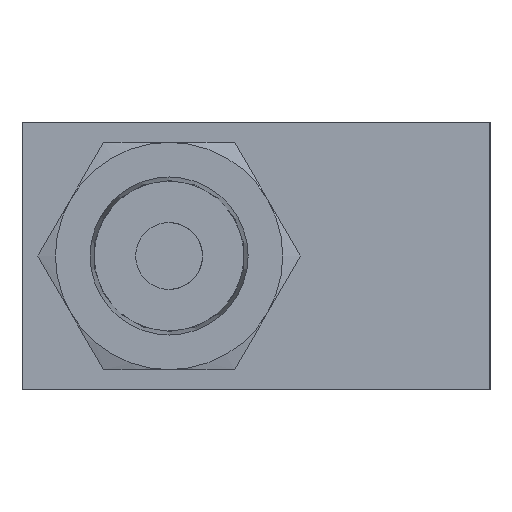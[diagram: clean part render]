
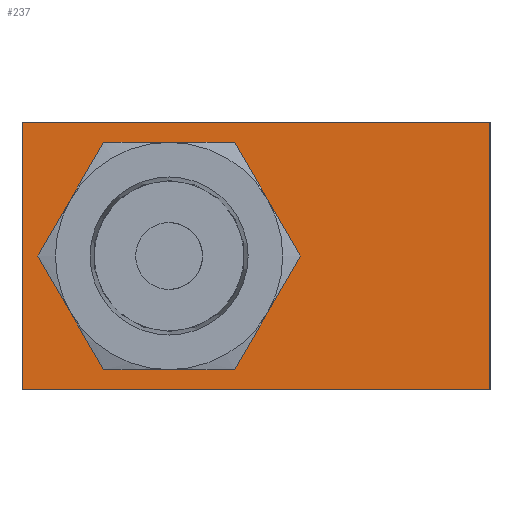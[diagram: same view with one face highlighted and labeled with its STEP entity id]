
A CAD part, left-side view. The second image highlights one B-rep face of the part: STEP entity #237.
In plain terms, the highlighted planar face has unit normal (-1, 0, 0).
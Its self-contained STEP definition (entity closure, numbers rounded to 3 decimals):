
#237=ADVANCED_FACE('',(#404,#405),#406,.F.);
#404=FACE_OUTER_BOUND('',#701,.T.);
#405=FACE_BOUND('',#702,.T.);
#406=PLANE('',#703);
#701=EDGE_LOOP('',(#1107,#1108,#1109,#1110));
#702=EDGE_LOOP('',(#1111,#1112,#1113,#1114,#1115,#1116));
#703=AXIS2_PLACEMENT_3D('',#1117,#1118,#1119);
#1107=ORIENTED_EDGE('',*,*,#1912,.F.);
#1108=ORIENTED_EDGE('',*,*,#1893,.F.);
#1109=ORIENTED_EDGE('',*,*,#1913,.T.);
#1110=ORIENTED_EDGE('',*,*,#1914,.T.);
#1111=ORIENTED_EDGE('',*,*,#1867,.F.);
#1112=ORIENTED_EDGE('',*,*,#1873,.F.);
#1113=ORIENTED_EDGE('',*,*,#1874,.F.);
#1114=ORIENTED_EDGE('',*,*,#1859,.F.);
#1115=ORIENTED_EDGE('',*,*,#1911,.F.);
#1116=ORIENTED_EDGE('',*,*,#1881,.F.);
#1117=CARTESIAN_POINT('',(0.,35.0,10.0));
#1118=DIRECTION('',(1.0,0.0,0.0));
#1119=DIRECTION('',(0.0,1.0,0.0));
#1859=EDGE_CURVE('',#2135,#2130,#2137,.T.);
#1867=EDGE_CURVE('',#2150,#2145,#2152,.T.);
#1873=EDGE_CURVE('',#2160,#2150,#2162,.T.);
#1874=EDGE_CURVE('',#2130,#2160,#2163,.T.);
#1881=EDGE_CURVE('',#2145,#2169,#2174,.T.);
#1893=EDGE_CURVE('',#2194,#2196,#2197,.T.);
#1911=EDGE_CURVE('',#2169,#2135,#2224,.T.);
#1912=EDGE_CURVE('',#2196,#2225,#2226,.T.);
#1913=EDGE_CURVE('',#2194,#2227,#2228,.T.);
#1914=EDGE_CURVE('',#2227,#2225,#2229,.T.);
#2130=VERTEX_POINT('',#2591);
#2135=VERTEX_POINT('',#2601);
#2137=CIRCLE('',#2607,8.5);
#2145=VERTEX_POINT('',#2620);
#2150=VERTEX_POINT('',#2630);
#2152=CIRCLE('',#2634,8.5);
#2160=VERTEX_POINT('',#2653);
#2162=CIRCLE('',#2657,8.5);
#2163=CIRCLE('',#2658,8.5);
#2169=VERTEX_POINT('',#2670);
#2174=CIRCLE('',#2680,8.5);
#2194=VERTEX_POINT('',#2702);
#2196=VERTEX_POINT('',#2705);
#2197=LINE('',#2706,#2707);
#2224=CIRCLE('',#2746,8.5);
#2225=VERTEX_POINT('',#2747);
#2226=LINE('',#2748,#2749);
#2227=VERTEX_POINT('',#2750);
#2228=LINE('',#2751,#2752);
#2229=LINE('',#2753,#2754);
#2591=CARTESIAN_POINT('',(0.,16.639,-4.25));
#2601=CARTESIAN_POINT('',(0.,24.0,-8.5));
#2607=AXIS2_PLACEMENT_3D('',#3239,#3240,#3241);
#2620=CARTESIAN_POINT('',(0.,31.361,4.25));
#2630=CARTESIAN_POINT('',(0.,24.0,8.5));
#2634=AXIS2_PLACEMENT_3D('',#3244,#3245,#3246);
#2653=CARTESIAN_POINT('',(0.,16.639,4.25));
#2657=AXIS2_PLACEMENT_3D('',#3248,#3249,#3250);
#2658=AXIS2_PLACEMENT_3D('',#3251,#3252,#3253);
#2670=CARTESIAN_POINT('',(0.,31.361,-4.25));
#2680=AXIS2_PLACEMENT_3D('',#3255,#3256,#3257);
#2702=CARTESIAN_POINT('',(0.,35.0,10.0));
#2705=CARTESIAN_POINT('',(0.,0.0,10.0));
#2706=CARTESIAN_POINT('',(0.,35.0,10.0));
#2707=VECTOR('',#3286,1.0);
#2746=AXIS2_PLACEMENT_3D('',#3322,#3323,#3324);
#2747=CARTESIAN_POINT('',(0.,0.0,-10.0));
#2748=CARTESIAN_POINT('',(0.,0.0,10.0));
#2749=VECTOR('',#3325,1.0);
#2750=CARTESIAN_POINT('',(0.,35.0,-10.0));
#2751=CARTESIAN_POINT('',(0.,35.0,10.0));
#2752=VECTOR('',#3326,1.0);
#2753=CARTESIAN_POINT('',(0.,35.0,-10.0));
#2754=VECTOR('',#3327,1.0);
#3239=CARTESIAN_POINT('',(0.,24.0,0.0));
#3240=DIRECTION('',(-1.0,0.0,0.0));
#3241=DIRECTION('',(0.0,0.0,-1.0));
#3244=CARTESIAN_POINT('',(0.,24.0,0.0));
#3245=DIRECTION('',(-1.0,0.0,0.0));
#3246=DIRECTION('',(0.0,0.0,-1.0));
#3248=CARTESIAN_POINT('',(0.,24.0,0.0));
#3249=DIRECTION('',(-1.0,0.0,0.0));
#3250=DIRECTION('',(0.0,0.0,-1.0));
#3251=CARTESIAN_POINT('',(0.,24.0,0.0));
#3252=DIRECTION('',(-1.0,0.0,0.0));
#3253=DIRECTION('',(0.0,0.0,-1.0));
#3255=CARTESIAN_POINT('',(0.,24.0,0.0));
#3256=DIRECTION('',(-1.0,0.0,0.0));
#3257=DIRECTION('',(0.0,0.0,-1.0));
#3286=DIRECTION('',(0.0,-1.0,0.0));
#3322=CARTESIAN_POINT('',(0.,24.0,0.0));
#3323=DIRECTION('',(-1.0,0.0,0.0));
#3324=DIRECTION('',(0.0,0.0,-1.0));
#3325=DIRECTION('',(0.0,0.0,-1.0));
#3326=DIRECTION('',(0.0,0.0,-1.0));
#3327=DIRECTION('',(0.0,-1.0,0.0));
